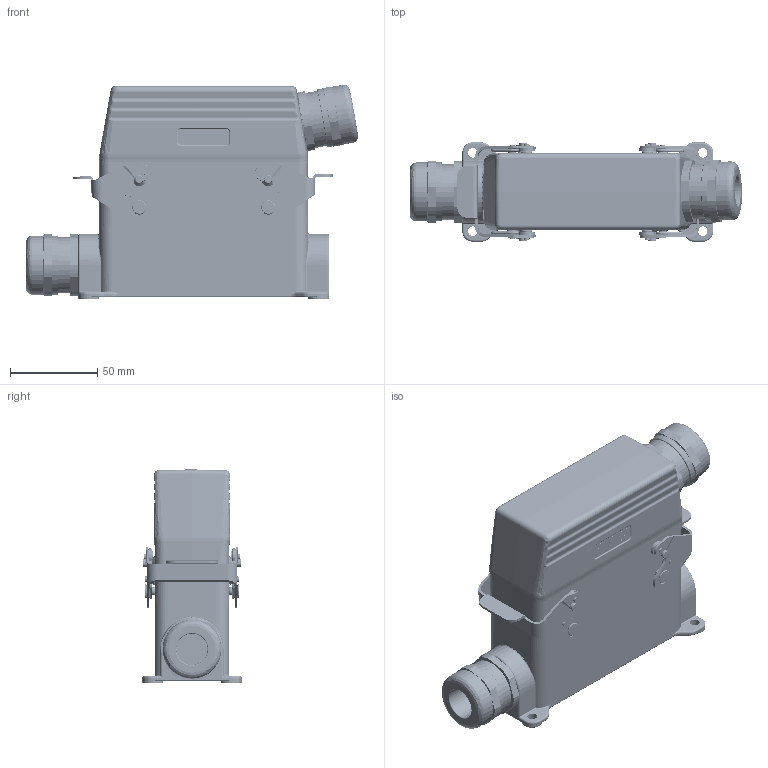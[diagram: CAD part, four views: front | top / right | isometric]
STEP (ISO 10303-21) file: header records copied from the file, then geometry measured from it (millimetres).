
FILE_DESCRIPTION (( 'STEP AP214' ), '1' );
FILE_NAME ('09024103225M HE、24针、表面底座、侧出M25套件、配金属接头.STEP', '2024-04-30T05:40:27', ( 'L' ), ( '' ), 'SwSTEP 2.0', 'SolidWorks 2019', '' );
FILE_SCHEMA (( 'AUTOMOTIVE_DESIGN' ));
Length unit declared in the file: millimetre
Products named in the file (6): H24B-TS-M25.step; FAS-25-M.step; H24B-SGR-M25.step; HE-024-F.stp; 09024103225M HE、24针、表面底座、侧出M25套件、配金属接头; HE-024-M.stp
Assembly tree (6 placements, depth 2):
  09024103225M HE、24针、表面底座、侧出M25套件、配金属接头
    HE-024-M.stp
    HE-024-F.stp
    H24B-TS-M25.step
    FAS-25-M.step  x2
    H24B-SGR-M25.step
Bounding box: 190.54 x 57 x 123.09 mm (x, y, z)
Volume: 356016.4 mm3; surface area: 197517.1 mm2
Topology: 6 solids, 11 shells, 7447 faces, 19785 edges, 12429 vertices
Faces by surface type: plane 3380, cylinder 1728, bspline 1443, cone 470, torus 336, sphere 90
Entity records: 319100 total; most frequent: CARTESIAN_POINT 119549, ORIENTED_EDGE 38980, DIRECTION 32442, EDGE_CURVE 19490, VERTEX_POINT 12289, AXIS2_PLACEMENT_3D 10833, VECTOR 10776, LINE 10776
